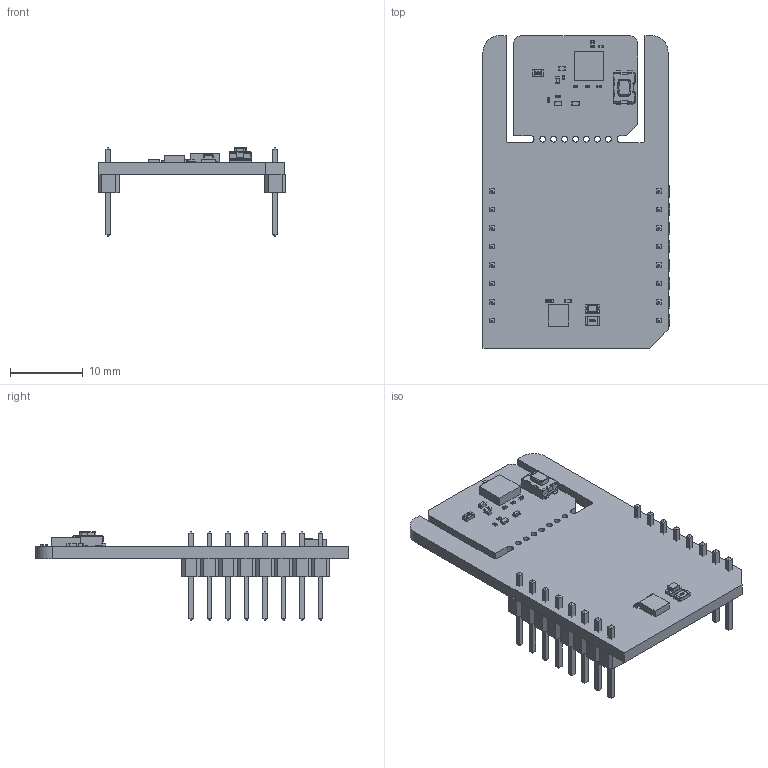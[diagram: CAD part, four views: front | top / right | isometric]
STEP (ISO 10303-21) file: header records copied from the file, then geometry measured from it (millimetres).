
FILE_DESCRIPTION(('Open CASCADE Model'),'2;1');
FILE_NAME('Open CASCADE Shape Model','2025-12-10T13:27:53',('Author'),( 'Open CASCADE'),'Open CASCADE STEP processor 6.8','Open CASCADE 6.8' ,'Unknown');
FILE_SCHEMA(('AUTOMOTIVE_DESIGN { 1 0 10303 214 1 1 1 1 }'));
Length unit declared in the file: millimetre
Products named in the file (50): PCB; Board; C3; User_Library-SMD_CAPACITOR; C2; LD2; Led_0402; JP1; User_Library-R_0603; T1; User_Library-Switch-CK-KMR2; User_Library-Switch-CK-KMR2_Button; User_Library-Switch-CK-KMR2_Boitier; User_Library-Switch-CK-KMR2_Tole; User_Library-Switch-CK-KMR2_Pads; R6; Resistor_0201; R5; Q1; Scene1; Part1; Part2; R?; User_Library-R_0805; LD1; led_0805_green; R2; User_Library-R_0402; C1; User_Library-SMD_CAPACITOR0402; U1; 1727008768; Extruded; MBD1; Header_1x8; Free-Models; 1240637040; User_Library-PinHeaderX5-1_PinHeaderX5_Body_1; User_Library-PinHeaderX5-1_PinHeaderX5_Pins_1; C4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
Assembly tree (60 placements, depth 7):
  PCB
    Board
    C3
      User_Library-SMD_CAPACITOR
    C2
      User_Library-SMD_CAPACITOR
    LD2
      Led_0402
    JP1
      User_Library-R_0603
    T1
      User_Library-Switch-CK-KMR2
        User_Library-Switch-CK-KMR2_Button
        User_Library-Switch-CK-KMR2_Boitier
        User_Library-Switch-CK-KMR2_Tole
        User_Library-Switch-CK-KMR2_Pads
    R6
      Resistor_0201
    R5
      Resistor_0201
    Q1
      Scene1
        Part1
        Part2
    R?
      User_Library-R_0805
    LD1
      led_0805_green
    R2
      User_Library-R_0402
    C1
      User_Library-SMD_CAPACITOR0402
    U1
      1727008768
        Extruded
    MBD1
      Header_1x8  x2
        PCB
          Free-Models
            1240637040  x2
              User_Library-PinHeaderX5-1_PinHeaderX5_Body_1
              User_Library-PinHeaderX5-1_PinHeaderX5_Pins_1
    C4
      User_Library-SMD_CAPACITOR0402
    C5
      User_Library-SMD_CAPACITOR
    C6
      User_Library-SMD_CAPACITOR0402
    R1
      Resistor_0201
    R3
      Resistor_0201
    R4
      Resistor_0201
    U2
      1526214240
        Extruded
    R7
      Resistor_0201
Bounding box: 25.78 x 42.93 x 12.21 mm (x, y, z)
Volume: 2243.5 mm3; surface area: 3986.7 mm2
Topology: 66 solids, 66 shells, 1809 faces, 4540 edges, 2876 vertices
Faces by surface type: plane 1267, bspline 305, cylinder 175, sphere 56, cone 6
Full cylindrical faces by diameter (mm): 0.093 x1, 0.8 x7
Entity records: 40805 total; most frequent: CARTESIAN_POINT 13965, ORIENTED_EDGE 4432, DIRECTION 3747, EDGE_CURVE 2216, LINE 1675, VECTOR 1675, VERTEX_POINT 1436, AXIS2_PLACEMENT_3D 1036
